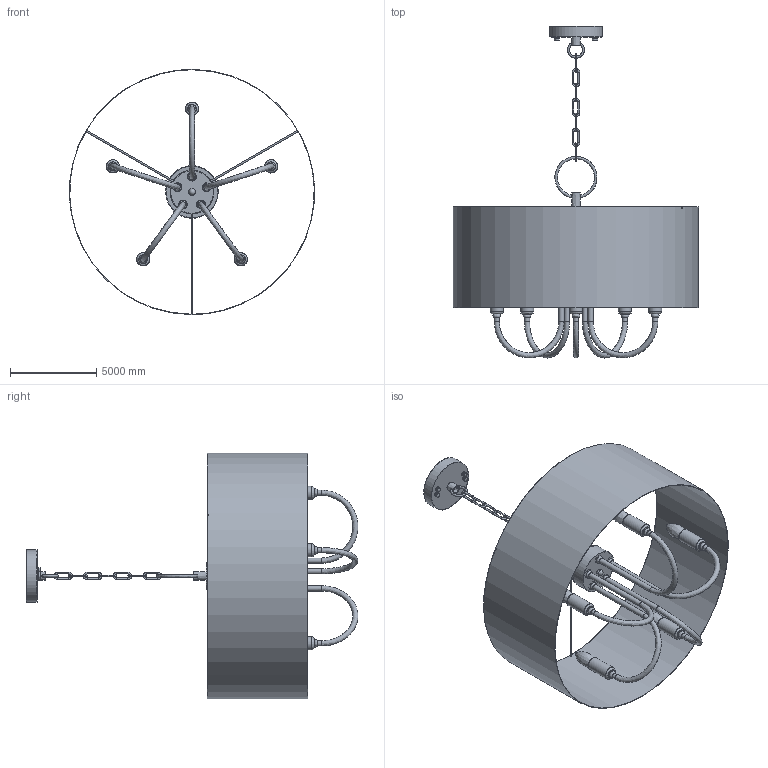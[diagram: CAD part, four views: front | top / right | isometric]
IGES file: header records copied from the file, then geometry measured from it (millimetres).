
Global section: file name: Raymond Drum Chandelier; native system: AutoCAD 2022 - 简体中文 (Simplified Chinese),62HAuto; preprocessor: desk Translation Framework DWG producer (atf_dwg_producer); organization: unknown; date: 20251120.114620; units: inch
Bounding box: 14222.89 x 19255.31 x 14233.48 mm (x, y, z)
Volume: 16090174293.7 mm3; surface area: 734152664.8 mm2
Topology: 53 solids, 53 shells, 363 faces, 811 edges, 567 vertices
Faces by surface type: bspline 363
